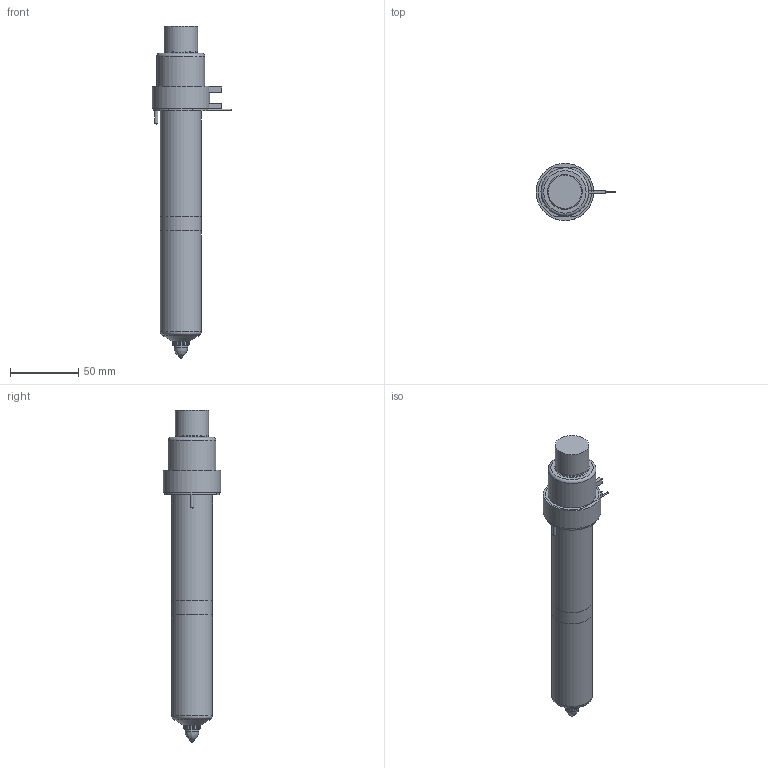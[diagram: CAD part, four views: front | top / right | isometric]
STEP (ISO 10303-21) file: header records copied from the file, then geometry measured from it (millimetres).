
FILE_DESCRIPTION(/* description */ (''),/* implementation_level */ '2;1');
FILE_NAME(/* name */ 'SXTT-SXIT16175-5_200C_b',/* time_stamp */ '2007-01-24T17:21:32+13:00',/* author */ (''),/* organization */ (''),/* preprocessor_version */ 'ST-DEVELOPER v9',/* originating_system */ 'UGS - NX 4.0',/* authorisation */ '');
FILE_SCHEMA (('CONFIG_CONTROL_DESIGN'));
Length unit declared in the file: millimetre
Products named in the file (1): SXTT-SXIT16175-5_200C_b
Bounding box: 58.25 x 42 x 242.68 mm (x, y, z)
Volume: 306076.1 mm3; surface area: 49732.2 mm2
Topology: 7 solids, 7 shells, 99 faces, 192 edges, 121 vertices
Faces by surface type: plane 45, cylinder 30, cone 12, torus 10, bspline 2
Full cylindrical faces by diameter (mm): 1 x4, 2.5 x2, 6.5 x1, 7 x1, 10 x1, 11.61 x1, 12.01 x2, 14.8 x1, 24 x1, 24.4 x1, 25.4 x1, 30 x2, 31.8 x1, 35 x1, 40 x1, 42 x1
Entity records: 2413 total; most frequent: CARTESIAN_POINT 486, DIRECTION 408, ORIENTED_EDGE 282, AXIS2_PLACEMENT_3D 179, EDGE_LOOP 156, EDGE_CURVE 141, VERTEX_POINT 114, ADVANCED_FACE 99
